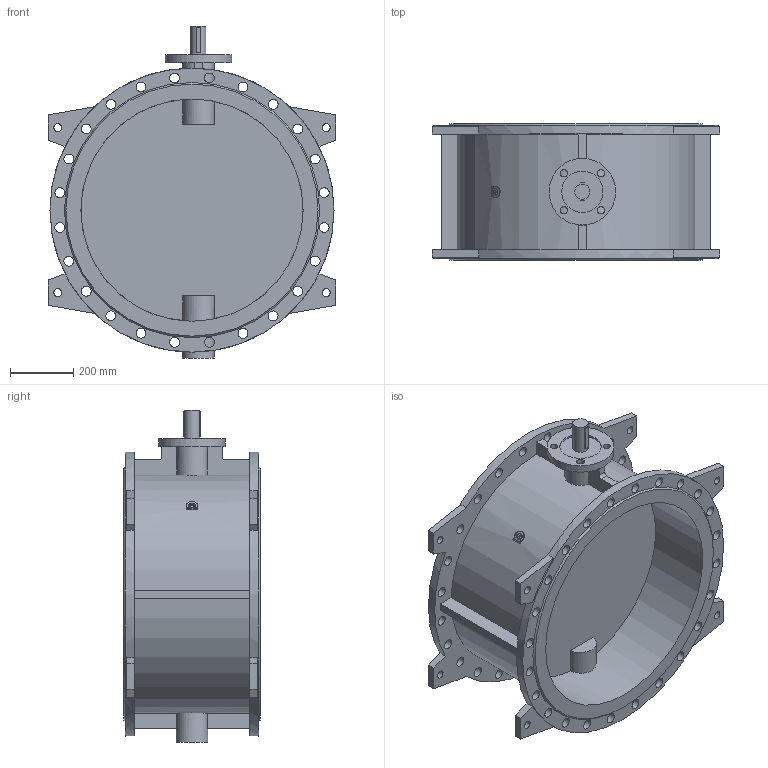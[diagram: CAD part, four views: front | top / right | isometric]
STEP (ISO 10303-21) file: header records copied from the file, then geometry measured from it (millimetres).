
FILE_DESCRIPTION(('STEP AP203'), '1');
FILE_NAME('Çàòâîð 023F.Z DN700 PN10_èñï', '', ('UNSPECIFIED'), ('UNSPECIFIED'), 'ASCON STEP Converter 1.6', 'ASCON Math Kernel', '');
FILE_SCHEMA(('CONFIG_CONTROL_DESIGN'));
Length unit declared in the file: millimetre
Bounding box: 906 x 430 x 1046 mm (x, y, z)
Volume: 61936495.1 mm3; surface area: 3991282.4 mm2
Topology: 1 solids, 1 shells, 174 faces, 477 edges, 318 vertices
Faces by surface type: cylinder 87, plane 85, cone 2
Full cylindrical faces by diameter (mm): 23 x4, 25 x8, 31 x48, 48 x1, 100 x1, 130 x1, 210 x1, 700 x2, 895 x2
Entity records: 7965 total; most frequent: CARTESIAN_POINT 1997, DIRECTION 926, ORIENTED_EDGE 812, EDGE_CURVE 406, EDGE_LOOP 378, AXIS2_PLACEMENT_3D 364, VERTEX_POINT 318, FACE_BOUND 242
